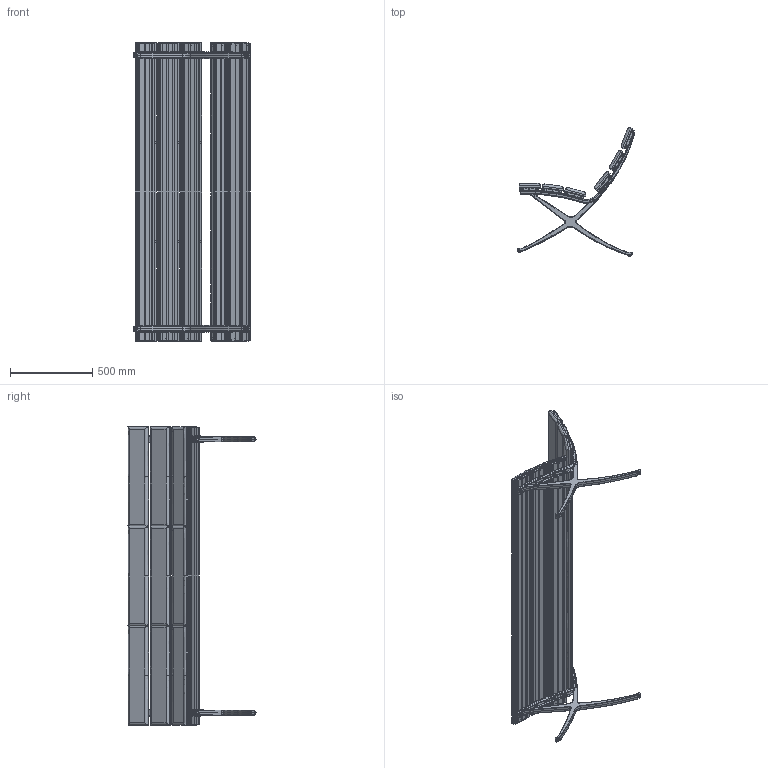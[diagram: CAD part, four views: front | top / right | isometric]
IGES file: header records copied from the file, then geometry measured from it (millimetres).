
Start section: SolidWorks IGES file using analytic representation for surfaces
Global section: file name: W:\OFICINA TÉCNICA 9001\2-MOBILIARIO E INSTALACIÓN\394- BENCH B\PLANOS TÉCNICOS\2D-3D\IGS\MI-394-05-03-F230113-BENCH B 3PLAZAS TAPIZADO.IGS; native system: SolidWorks 2011; preprocessor: SolidWorks 2011; author: otecnica01; date: 140707.135301; units: millimetre
Bounding box: 711.89 x 776.79 x 1813.01 mm (x, y, z)
Volume: 46896309 mm3; surface area: 9862279.2 mm2
Topology: 100 solids, 100 shells, 3100 faces, 7658 edges, 4716 vertices
Faces by surface type: revolution 1850, plane 994, bspline 256
